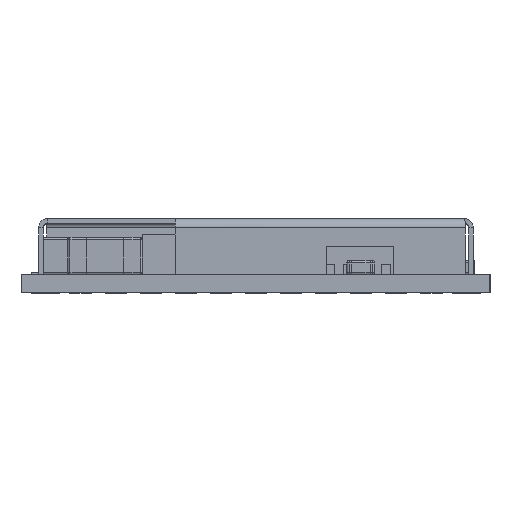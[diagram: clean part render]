
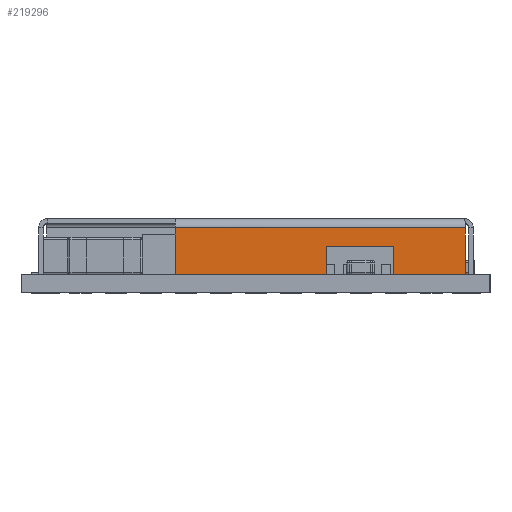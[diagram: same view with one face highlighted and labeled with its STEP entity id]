
A CAD part, left-side view. The second image highlights one B-rep face of the part: STEP entity #219296.
In plain terms, the highlighted planar face has unit normal (-1, 0, 0).
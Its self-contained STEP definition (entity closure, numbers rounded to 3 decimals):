
#934 = DIRECTION ( 'NONE',  ( 0., 0., 1. ) ) ;
#1717 = LINE ( 'NONE', #256163, #159824 ) ;
#9304 = VECTOR ( 'NONE', #270807, 1000. ) ;
#21583 = LINE ( 'NONE', #105459, #213715 ) ;
#24586 = CARTESIAN_POINT ( 'NONE',  ( 0.353, 3.5, 0.6 ) ) ;
#26213 = DIRECTION ( 'NONE',  ( 1., 0., 0. ) ) ;
#28766 = LINE ( 'NONE', #174558, #176347 ) ;
#29499 = LINE ( 'NONE', #76228, #90712 ) ;
#31196 = EDGE_CURVE ( 'NONE', #95000, #38062, #1717, .T. ) ;
#34581 = VECTOR ( 'NONE', #268015, 1000. ) ;
#35703 = ORIENTED_EDGE ( 'NONE', *, *, #167239, .F. ) ;
#38062 = VERTEX_POINT ( 'NONE', #76058 ) ;
#38091 = EDGE_LOOP ( 'NONE', ( #190734, #235686, #233046, #220456, #179324, #35703, #234209, #187546 ) ) ;
#40993 = LINE ( 'NONE', #186809, #9304 ) ;
#44149 = CARTESIAN_POINT ( 'NONE',  ( 0.353, 0.353, 1.2 ) ) ;
#46415 = VERTEX_POINT ( 'NONE', #108003 ) ;
#54003 = VERTEX_POINT ( 'NONE', #62113 ) ;
#54191 = DIRECTION ( 'NONE',  ( 0., -1., 0. ) ) ;
#62113 = CARTESIAN_POINT ( 'NONE',  ( 0.353, 3.5, 0.6 ) ) ;
#76058 = CARTESIAN_POINT ( 'NONE',  ( 0.353, 6.725, 1. ) ) ;
#76228 = CARTESIAN_POINT ( 'NONE',  ( 0.353, 0.353, 0. ) ) ;
#79565 = LINE ( 'NONE', #183989, #34581 ) ;
#82110 = VERTEX_POINT ( 'NONE', #221297 ) ;
#88863 = VECTOR ( 'NONE', #221175, 1000. ) ;
#90712 = VECTOR ( 'NONE', #54191, 1000. ) ;
#95000 = VERTEX_POINT ( 'NONE', #229276 ) ;
#101394 = CARTESIAN_POINT ( 'NONE',  ( 0.353, 6.725, 0. ) ) ;
#105459 = CARTESIAN_POINT ( 'NONE',  ( 0.353, 6.725, 0. ) ) ;
#108003 = CARTESIAN_POINT ( 'NONE',  ( 0.353, 2.061, 0. ) ) ;
#113874 = CARTESIAN_POINT ( 'NONE',  ( 0.353, 2.061, 0. ) ) ;
#122824 = EDGE_CURVE ( 'NONE', #141611, #95000, #79565, .T. ) ;
#134460 = DIRECTION ( 'NONE',  ( 0., 1., 0. ) ) ;
#141611 = VERTEX_POINT ( 'NONE', #169969 ) ;
#149652 = EDGE_CURVE ( 'NONE', #206409, #154964, #28766, .T. ) ;
#152555 = DIRECTION ( 'NONE',  ( 0., -1., 0. ) ) ;
#153277 = CARTESIAN_POINT ( 'NONE',  ( 0.353, 3.5, 0. ) ) ;
#153915 = EDGE_CURVE ( 'NONE', #46415, #82110, #219851, .T. ) ;
#154964 = VERTEX_POINT ( 'NONE', #153277 ) ;
#158094 = EDGE_CURVE ( 'NONE', #46415, #141611, #29499, .T. ) ;
#159540 = VECTOR ( 'NONE', #134460, 1000. ) ;
#159824 = VECTOR ( 'NONE', #252107, 1000. ) ;
#167239 = EDGE_CURVE ( 'NONE', #206409, #38062, #21583, .T. ) ;
#169969 = CARTESIAN_POINT ( 'NONE',  ( 0.353, 0.524, 0. ) ) ;
#174558 = CARTESIAN_POINT ( 'NONE',  ( 0.353, 0.353, 0. ) ) ;
#174956 = AXIS2_PLACEMENT_3D ( 'NONE', #44149, #26213, #191242 ) ;
#176347 = VECTOR ( 'NONE', #152555, 1000. ) ;
#179324 = ORIENTED_EDGE ( 'NONE', *, *, #31196, .T. ) ;
#183989 = CARTESIAN_POINT ( 'NONE',  ( 0.353, 0.524, 1.2 ) ) ;
#186809 = CARTESIAN_POINT ( 'NONE',  ( 0.353, 3.5, 0. ) ) ;
#187546 = ORIENTED_EDGE ( 'NONE', *, *, #242651, .F. ) ;
#190734 = ORIENTED_EDGE ( 'NONE', *, *, #244965, .F. ) ;
#191242 = DIRECTION ( 'NONE',  ( 0., 0., -1. ) ) ;
#206409 = VERTEX_POINT ( 'NONE', #101394 ) ;
#213715 = VECTOR ( 'NONE', #934, 1000. ) ;
#219296 = ADVANCED_FACE ( 'NONE', ( #236662 ), #232624, .F. ) ;
#219851 = LINE ( 'NONE', #113874, #88863 ) ;
#220456 = ORIENTED_EDGE ( 'NONE', *, *, #122824, .T. ) ;
#221175 = DIRECTION ( 'NONE',  ( 0., 0., 1. ) ) ;
#221297 = CARTESIAN_POINT ( 'NONE',  ( 0.353, 2.061, 0.6 ) ) ;
#229276 = CARTESIAN_POINT ( 'NONE',  ( 0.353, 0.524, 1. ) ) ;
#232624 = PLANE ( 'NONE',  #174956 ) ;
#233046 = ORIENTED_EDGE ( 'NONE', *, *, #158094, .T. ) ;
#234209 = ORIENTED_EDGE ( 'NONE', *, *, #149652, .T. ) ;
#235686 = ORIENTED_EDGE ( 'NONE', *, *, #153915, .F. ) ;
#236662 = FACE_OUTER_BOUND ( 'NONE', #38091, .T. ) ;
#239066 = LINE ( 'NONE', #24586, #159540 ) ;
#242651 = EDGE_CURVE ( 'NONE', #54003, #154964, #40993, .T. ) ;
#244965 = EDGE_CURVE ( 'NONE', #82110, #54003, #239066, .T. ) ;
#252107 = DIRECTION ( 'NONE',  ( 0., 1., 0. ) ) ;
#256163 = CARTESIAN_POINT ( 'NONE',  ( 0.353, 0.353, 1. ) ) ;
#268015 = DIRECTION ( 'NONE',  ( 0., 0., 1. ) ) ;
#270807 = DIRECTION ( 'NONE',  ( 0., 0., -1. ) ) ;
